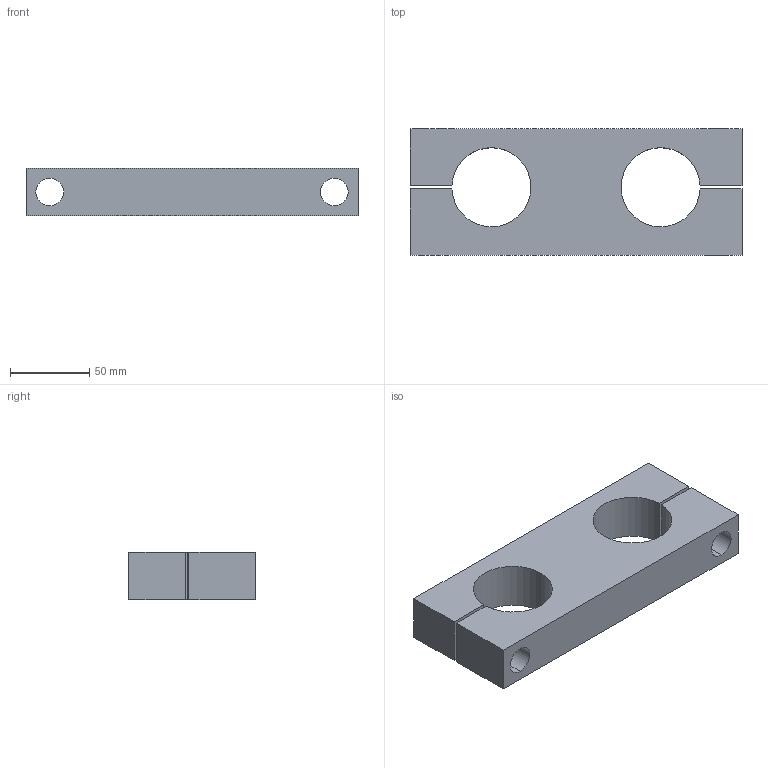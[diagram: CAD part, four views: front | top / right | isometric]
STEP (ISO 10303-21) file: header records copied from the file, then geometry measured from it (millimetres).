
FILE_DESCRIPTION (( 'STEP AP214' ), '1' );
FILE_NAME ('KTAC-50.step', '2020-03-04T13:12:51', ( '' ), ( '' ), 'SwSTEP 2.0', 'SolidWorks 2019', '' );
FILE_SCHEMA (( 'AUTOMOTIVE_DESIGN' ));
Length unit declared in the file: millimetre
Products named in the file (1): KTAC-50
Bounding box: 210 x 80 x 30 mm (x, y, z)
Volume: 333106.7 mm3; surface area: 63043 mm2
Topology: 1 solids, 1 shells, 35 faces, 89 edges, 57 vertices
Faces by surface type: cylinder 17, plane 14, cone 4
Entity records: 1103 total; most frequent: DIRECTION 195, CARTESIAN_POINT 180, ORIENTED_EDGE 174, EDGE_CURVE 87, AXIS2_PLACEMENT_3D 72, VERTEX_POINT 57, LINE 51, VECTOR 51
